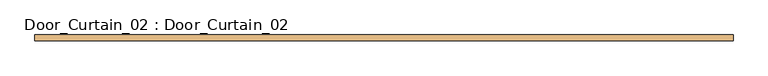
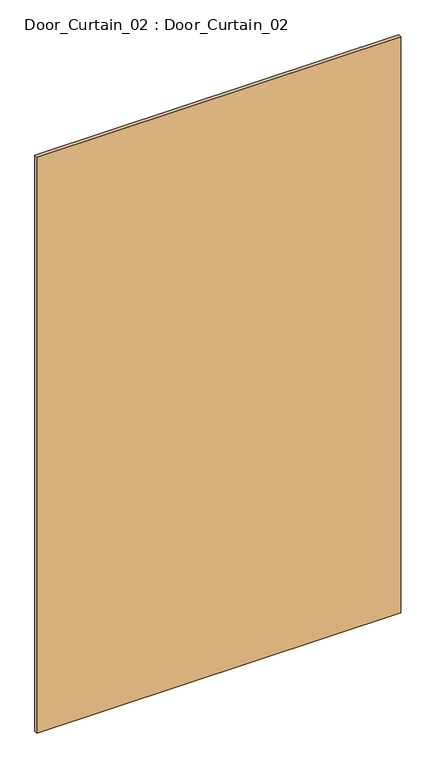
"""IFC4 building model written with IfcOpenShell, lengths in millimetres: door geometry, Door_Curtain_02 : Door_Curtain_02."""

from ifc_helpers import new_model, si_unit, origin, origin_with_axes, place, context, project, spatial, polyline, outline, extrude, source, transform, mapped, element, save


def door_curtain_02_door_curtain_02_17623e84(model_context):
    return source(origin(), model_context, "Body", "SweptSolid", [
        extrude(outline(polyline([(777.4996442, 5.0), (777.4996442, -7.7), (-777.4996442, -7.7), (-777.4996442, 5.0), (777.4996442, 5.0)])), origin_with_axes(), (0.0, 0.0, 1.0), 2600.8896883),
    ])


if __name__ == "__main__":
    model = new_model("IFC4")
    model_context = context("Model", 3, world=origin())
    ifc_project = project(units=[si_unit("LENGTHUNIT", "METRE", prefix="MILLI")], contexts=[model_context])
    site = spatial("IfcSite", under=ifc_project)
    building = spatial("IfcBuilding", under=site)
    placement = place(None, origin())
    door_curtain_02_door_curtain_02_shape = door_curtain_02_door_curtain_02_17623e84(model_context)
    element("IfcDoor", 1, ObjectType="Door_Curtain_02 : Door_Curtain_02", at=placement, inside=building, context=model_context, shape_type="MappedRepresentation", body=[
        mapped(door_curtain_02_door_curtain_02_shape, transform((0.0, 0.0, 0.0), x_axis=(1.0, 0.0, 0.0), y_axis=(0.0, 1.0, 0.0), z_axis=(0.0, 0.0, 1.0))),
    ])
    save(model, "model.ifc")
